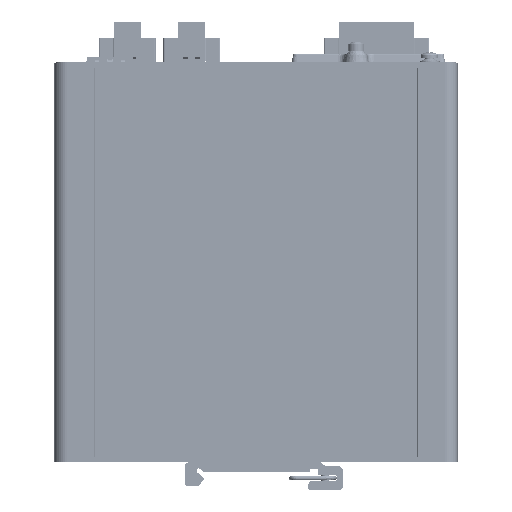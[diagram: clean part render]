
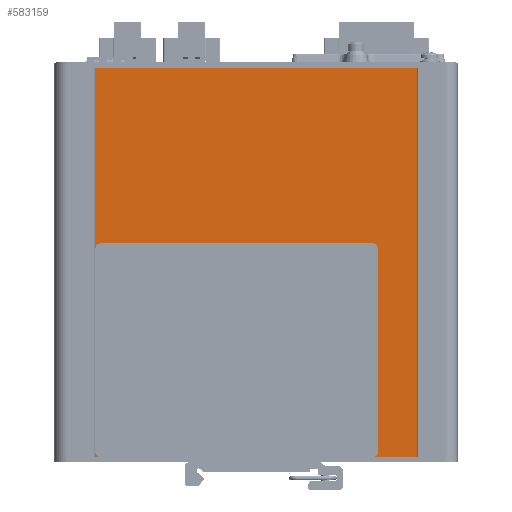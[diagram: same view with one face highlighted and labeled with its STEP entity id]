
A CAD part, left-side view. The second image highlights one B-rep face of the part: STEP entity #583159.
In plain terms, the highlighted planar face has unit normal (-1, 0, 0).
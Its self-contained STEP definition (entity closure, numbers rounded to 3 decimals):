
#9804 = EDGE_CURVE ( 'NONE', #320031, #226862, #468703, .T. ) ;
#10947 = DIRECTION ( 'NONE',  ( 0., 0., -1. ) ) ;
#39936 = LINE ( 'NONE', #278719, #107530 ) ;
#69169 = VECTOR ( 'NONE', #175420, 1000. ) ;
#72145 = VECTOR ( 'NONE', #10947, 1000. ) ;
#85700 = PLANE ( 'NONE',  #232607 ) ;
#107530 = VECTOR ( 'NONE', #521857, 1000. ) ;
#175420 = DIRECTION ( 'NONE',  ( 0., 1., 0. ) ) ;
#199215 = EDGE_LOOP ( 'NONE', ( #695776, #632364, #445652, #349260 ) ) ;
#202234 = CARTESIAN_POINT ( 'NONE',  ( -95.25, 114.3, -117.475 ) ) ;
#204920 = DIRECTION ( 'NONE',  ( 0., 0., -1. ) ) ;
#226862 = VERTEX_POINT ( 'NONE', #232911 ) ;
#232376 = CARTESIAN_POINT ( 'NONE',  ( -95.25, 114.3, -117.475 ) ) ;
#232607 = AXIS2_PLACEMENT_3D ( 'NONE', #202234, #635109, #204920 ) ;
#232911 = CARTESIAN_POINT ( 'NONE',  ( -95.25, 12.954, -117.475 ) ) ;
#238642 = CARTESIAN_POINT ( 'NONE',  ( -95.25, 114.046, -117.475 ) ) ;
#269833 = DIRECTION ( 'NONE',  ( 0., 0., 1. ) ) ;
#278719 = CARTESIAN_POINT ( 'NONE',  ( -95.25, 114.3, 5.08 ) ) ;
#306351 = CARTESIAN_POINT ( 'NONE',  ( -95.25, 12.954, -117.475 ) ) ;
#320031 = VERTEX_POINT ( 'NONE', #540153 ) ;
#327846 = LINE ( 'NONE', #342740, #608745 ) ;
#332672 = VERTEX_POINT ( 'NONE', #487018 ) ;
#342740 = CARTESIAN_POINT ( 'NONE',  ( -95.25, 114.046, -117.475 ) ) ;
#349260 = ORIENTED_EDGE ( 'NONE', *, *, #473460, .F. ) ;
#398312 = LINE ( 'NONE', #232376, #69169 ) ;
#445652 = ORIENTED_EDGE ( 'NONE', *, *, #602377, .F. ) ;
#468703 = LINE ( 'NONE', #306351, #72145 ) ;
#473460 = EDGE_CURVE ( 'NONE', #226862, #639328, #398312, .T. ) ;
#486012 = EDGE_CURVE ( 'NONE', #332672, #320031, #39936, .T. ) ;
#487018 = CARTESIAN_POINT ( 'NONE',  ( -95.25, 114.046, 5.08 ) ) ;
#521857 = DIRECTION ( 'NONE',  ( 0., -1., 0. ) ) ;
#530450 = FACE_OUTER_BOUND ( 'NONE', #199215, .T. ) ;
#540153 = CARTESIAN_POINT ( 'NONE',  ( -95.25, 12.954, 5.08 ) ) ;
#583159 = ADVANCED_FACE ( 'NONE', ( #530450 ), #85700, .F. ) ;
#602377 = EDGE_CURVE ( 'NONE', #639328, #332672, #327846, .T. ) ;
#608745 = VECTOR ( 'NONE', #269833, 1000. ) ;
#632364 = ORIENTED_EDGE ( 'NONE', *, *, #486012, .F. ) ;
#635109 = DIRECTION ( 'NONE',  ( 1., 0., 0. ) ) ;
#639328 = VERTEX_POINT ( 'NONE', #238642 ) ;
#695776 = ORIENTED_EDGE ( 'NONE', *, *, #9804, .F. ) ;
